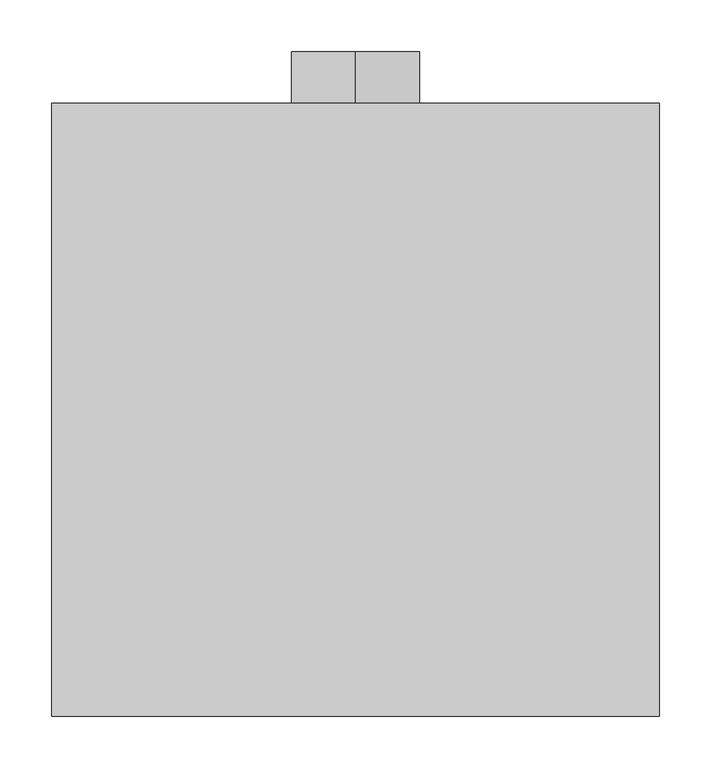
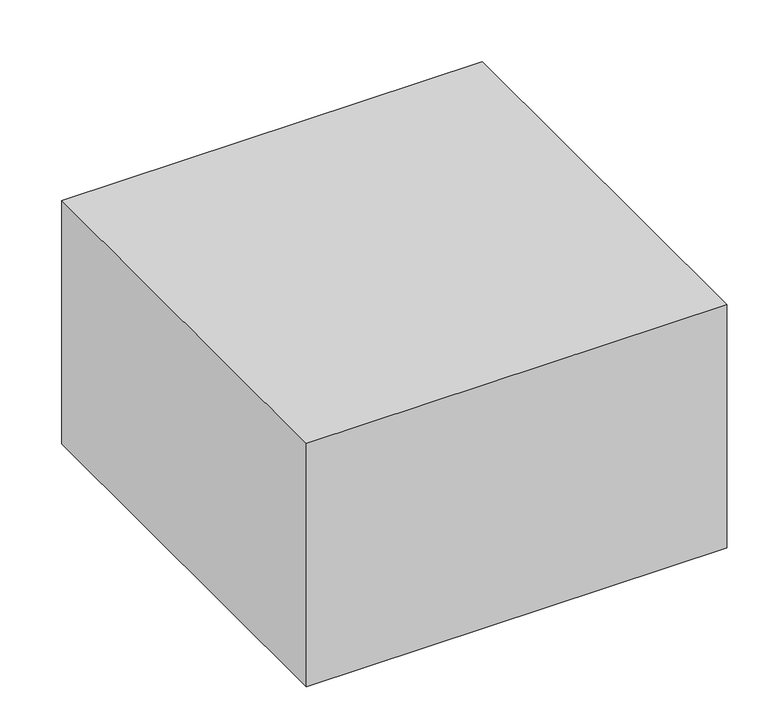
"""IFC4 building model written with IfcOpenShell, lengths in millimetres: air terminal geometry, EOL - plafonnier : EOL-P3-125-600x600."""

from ifc_helpers import new_model, si_unit, point, frame, frame_2d, origin, place, context, project, spatial, polyline, circle_curve, trimmed, segment, composite_curve, outline, extrude, source, transform, mapped, element, save
from ifc_brep_helpers import plane_surface, revolved_surface, advanced_brep


def air_terminal_f122593c(model_context):
    return source(origin(), model_context, "Body", "SolidModel", [
        extrude(outline(composite_curve([segment(trimmed(circle_curve(frame_2d((241.0, 0.0)), 62.5), [point((178.5, 0.0))], [point((303.5, 0.0))], False, "CARTESIAN"), True, "CONTINUOUS"), segment(trimmed(circle_curve(frame_2d((241.0, 0.0)), 62.5), [point((303.5, 0.0))], [point((178.5, 0.0))], False, "CARTESIAN"), True, "CONTINUOUS")], self_intersect=False), holes=[composite_curve([segment(trimmed(circle_curve(frame_2d((241.0, 0.0)), 61.5), [point((241.0, 61.5))], [point((241.0, -61.5))], True, "CARTESIAN"), True, "CONTINUOUS"), segment(trimmed(circle_curve(frame_2d((241.0, 0.0)), 61.5), [point((241.0, -61.5))], [point((241.0, 61.5))], True, "CARTESIAN"), True, "CONTINUOUS")], self_intersect=False)]), frame((0.0, 590.0, 0.0), z_axis=(0.0, 1.0, 0.0), x_axis=(0.0, 0.0, 1.0)), (0.0, 0.0, 1.0), 50.0),
        advanced_brep(
        [(295.0, 590.0, 361.0), (-295.0, 590.0, 361.0), (-295.0, -5.0, 361.0), (295.0, -5.0, 361.0), (295.0, 590.0, 0.0), (295.0, -5.0, 0.0), (-295.0, -5.0, 0.0), (-295.0, 590.0, 0.0), (290.0, 585.0, 0.0), (-290.0, 585.0, 0.0), (-290.0, 0.0, 0.0), (290.0, 0.0, 0.0), (-61.5, 590.0, 241.0), (61.5, 590.0, 241.0), (290.0, 585.0, 356.0), (290.0, 0.0, 356.0), (-290.0, 0.0, 356.0), (-290.0, 585.0, 356.0), (61.5, 585.0, 241.0), (-61.5, 585.0, 241.0)],
        [
            (0, 1),
            (1, 2),
            (2, 3),
            (3, 0),
            (4, 5),
            (5, 6),
            (6, 7),
            (7, 4),
            (8, 9),
            (9, 10),
            (10, 11),
            (11, 8),
            (0, 4),
            (7, 1),
            (12, 13, circle_curve(frame((0.0, 590.0, 241.0), z_axis=(0.0, -1.0, 0.0), x_axis=(1.0, 0.0, 0.0)), 61.5)),
            (13, 12, circle_curve(frame((0.0, 590.0, 241.0), z_axis=(0.0, -1.0, 0.0), x_axis=(1.0, 0.0, 0.0)), 61.5)),
            (6, 2),
            (5, 3),
            (14, 15),
            (15, 16),
            (16, 17),
            (17, 14),
            (17, 9),
            (8, 14),
            (18, 19, circle_curve(frame((0.0, 585.0, 241.0), z_axis=(0.0, 1.0, 0.0), x_axis=(1.0, 0.0, 0.0)), 61.5)),
            (19, 18, circle_curve(frame((0.0, 585.0, 241.0), z_axis=(0.0, 1.0, 0.0), x_axis=(1.0, 0.0, 0.0)), 61.5)),
            (16, 10),
            (15, 11),
            (12, 19),
            (18, 13),
        ],
        [
            plane_surface(frame((-295.0, 590.0, 361.0), z_axis=(0.0, 0.0, 1.0), x_axis=(-1.0, 0.0, 0.0))),
            plane_surface(frame((-295.0, 590.0, 0.0), z_axis=(0.0, 0.0, -1.0), x_axis=(1.0, 0.0, 0.0))),
            plane_surface(frame((295.0, 590.0, 361.0), z_axis=(0.0, 1.0, 0.0), x_axis=(0.0, 0.0, -1.0))),
            plane_surface(frame((-295.0, 590.0, 361.0), z_axis=(-1.0, 0.0, 0.0), x_axis=(0.0, 0.0, -1.0))),
            plane_surface(frame((-295.0, -5.0, 361.0), z_axis=(0.0, -1.0, 0.0), x_axis=(0.0, 0.0, -1.0))),
            plane_surface(frame((295.0, -5.0, 361.0), z_axis=(1.0, 0.0, 0.0), x_axis=(0.0, 0.0, -1.0))),
            plane_surface(frame((-290.0, 585.0, 356.0), z_axis=(0.0, 0.0, -1.0), x_axis=(-1.0, 0.0, 0.0))),
            plane_surface(frame((290.0, 585.0, 356.0), z_axis=(0.0, -1.0, 0.0), x_axis=(0.0, 0.0, -1.0))),
            plane_surface(frame((-290.0, 585.0, 356.0), z_axis=(1.0, 0.0, 0.0), x_axis=(0.0, 0.0, -1.0))),
            plane_surface(frame((-290.0, 0.0, 356.0), z_axis=(0.0, 1.0, 0.0), x_axis=(0.0, 0.0, -1.0))),
            plane_surface(frame((290.0, 0.0, 356.0), z_axis=(-1.0, 0.0, 0.0), x_axis=(0.0, 0.0, -1.0))),
            revolved_surface(polyline([(61.5, 585.0, 241.0), (61.5, 590.0, 241.0)]), (0.0, 640.0, 241.0), (0.0, -1.0, 0.0)),
        ],
        [
            (0, [[1, 2, 3, 4]]),
            (1, [[5, 6, 7, 8], [9, 10, 11, 12]]),
            (2, [[-1, 13, -8, 14], [15, 16]]),
            (3, [[-2, -14, -7, 17]]),
            (4, [[-3, -17, -6, 18]]),
            (5, [[-4, -18, -5, -13]]),
            (6, [[19, 20, 21, 22]]),
            (7, [[-22, 23, -9, 24], [25, 26]]),
            (8, [[-21, 27, -10, -23]]),
            (9, [[-20, 28, -11, -27]]),
            (10, [[-19, -24, -12, -28]]),
            (11, [[29, -25, 30, -15]]),
            (11, [[-29, -16, -30, -26]]),
        ],
    ),
    ])


if __name__ == "__main__":
    model = new_model("IFC4")
    model_context = context("Model", 3, world=origin())
    ifc_project = project(units=[si_unit("LENGTHUNIT", "METRE", prefix="MILLI")], contexts=[model_context])
    site = spatial("IfcSite", under=ifc_project)
    building = spatial("IfcBuilding", under=site)
    placement = place(None, origin())
    air_terminal_shape = air_terminal_f122593c(model_context)
    element("IfcAirTerminal", 1, ObjectType="EOL - plafonnier : EOL-P3-125-600x600", at=placement, inside=building, context=model_context, shape_type="MappedRepresentation", body=[
        mapped(air_terminal_shape, transform((0.0, 0.0, 0.0), x_axis=(1.0, 0.0, 0.0), y_axis=(0.0, 1.0, 0.0), z_axis=(0.0, 0.0, 1.0))),
    ])
    save(model, "model.ifc")
